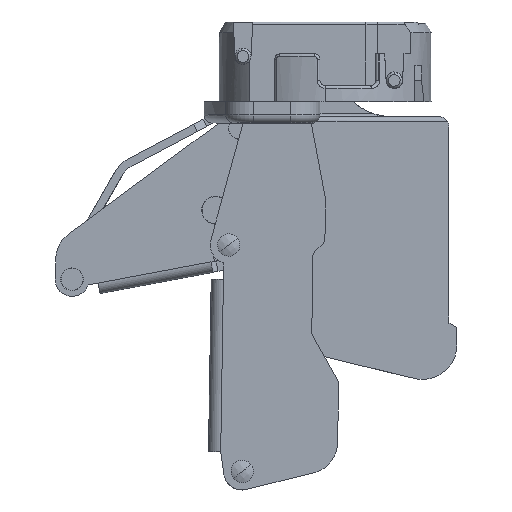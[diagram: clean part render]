
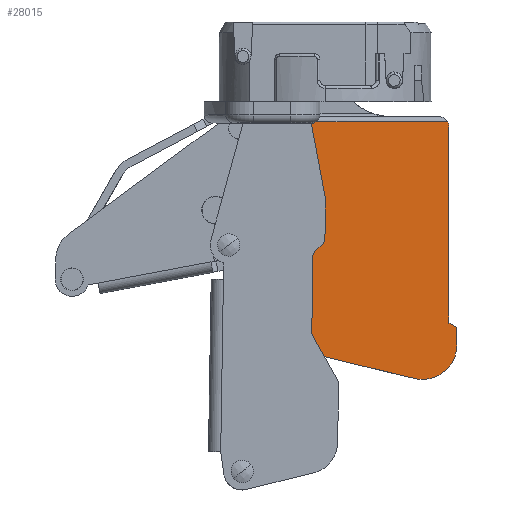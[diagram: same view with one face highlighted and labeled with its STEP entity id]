
A CAD part, left-side view. The second image highlights one B-rep face of the part: STEP entity #28015.
In plain terms, the highlighted planar face has unit normal (-1, 0, 0).
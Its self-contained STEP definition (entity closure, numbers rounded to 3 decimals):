
#2565 = CARTESIAN_POINT ( 'NONE',  ( -9., 2.6, -9.7 ) ) ;
#2569 = CARTESIAN_POINT ( 'NONE',  ( -9., -0.4, -8.6 ) ) ;
#2578 = CARTESIAN_POINT ( 'NONE',  ( -9., 2.6, -35. ) ) ;
#2582 = CARTESIAN_POINT ( 'NONE',  ( -9., 2.5, -42. ) ) ;
#2584 = CARTESIAN_POINT ( 'NONE',  ( -9., 1.5, -8.6 ) ) ;
#2663 = CARTESIAN_POINT ( 'NONE',  ( -9., -28.232, -6.8 ) ) ;
#2672 = CARTESIAN_POINT ( 'NONE',  ( -9., -30., -48.831 ) ) ;
#2673 = CARTESIAN_POINT ( 'NONE',  ( -9., -28.5, -44.7 ) ) ;
#2674 = CARTESIAN_POINT ( 'NONE',  ( -9., -28.5, -7.8 ) ) ;
#2675 = CARTESIAN_POINT ( 'NONE',  ( -9., -30., -45.566 ) ) ;
#2679 = CARTESIAN_POINT ( 'NONE',  ( -9., 1., -40.5 ) ) ;
#4075 = CARTESIAN_POINT ( 'NONE',  ( -9., -21.965, -55.147 ) ) ;
#4349 = CARTESIAN_POINT ( 'NONE',  ( -9., 2.5, -49.2 ) ) ;
#4380 = CARTESIAN_POINT ( 'NONE',  ( -9., 2.5, -47.727 ) ) ;
#4389 = CARTESIAN_POINT ( 'NONE',  ( -9., 2.5, -43.473 ) ) ;
#5339 = CIRCLE ( 'NONE', #7677, 2.127 ) ;
#5360 = CIRCLE ( 'NONE', #7683, 2.127 ) ;
#5828 = LINE ( 'NONE', #8553, #5829 ) ;
#5829 = VECTOR ( 'NONE', #8555, 1000. ) ;
#7388 = CARTESIAN_POINT ( 'NONE',  ( -9., 2.5, -45.6 ) ) ;
#7389 = DIRECTION ( 'NONE',  ( 1., 0., 0. ) ) ;
#7390 = DIRECTION ( 'NONE',  ( 0., 0., -1. ) ) ;
#7414 = CARTESIAN_POINT ( 'NONE',  ( -9., 2.5, -45.6 ) ) ;
#7415 = DIRECTION ( 'NONE',  ( 1., 0., 0. ) ) ;
#7416 = DIRECTION ( 'NONE',  ( 0., 0., -1. ) ) ;
#7677 = AXIS2_PLACEMENT_3D ( 'NONE', #7388, #7389, #7390 ) ;
#7683 = AXIS2_PLACEMENT_3D ( 'NONE', #7414, #7415, #7416 ) ;
#7751 = AXIS2_PLACEMENT_3D ( 'NONE', #8799, #8800, #8801 ) ;
#7756 = AXIS2_PLACEMENT_3D ( 'NONE', #8970, #8971, #8972 ) ;
#7760 = AXIS2_PLACEMENT_3D ( 'NONE', #8996, #8997, #8998 ) ;
#7761 = AXIS2_PLACEMENT_3D ( 'NONE', #9006, #9007, #9008 ) ;
#8151 = AXIS2_PLACEMENT_3D ( 'NONE', #12354, #12359, #12360 ) ;
#8553 = CARTESIAN_POINT ( 'NONE',  ( -9., -30., -57.1 ) ) ;
#8555 = DIRECTION ( 'NONE',  ( 0., 0.972, 0.236 ) ) ;
#8780 = CARTESIAN_POINT ( 'NONE',  ( -9., 2.6, -9.7 ) ) ;
#8781 = CARTESIAN_POINT ( 'NONE',  ( -9., -0.4, -8.6 ) ) ;
#8782 = DIRECTION ( 'NONE',  ( 0., 0., 1. ) ) ;
#8785 = CARTESIAN_POINT ( 'NONE',  ( -9., 1.5, -8.6 ) ) ;
#8786 = DIRECTION ( 'NONE',  ( 0., -0.707, 0.707 ) ) ;
#8789 = DIRECTION ( 'NONE',  ( 0., -1., 0. ) ) ;
#8799 = CARTESIAN_POINT ( 'NONE',  ( -9., 2.5, -45.6 ) ) ;
#8800 = DIRECTION ( 'NONE',  ( 1., 0., 0. ) ) ;
#8801 = DIRECTION ( 'NONE',  ( 0., 0., 1. ) ) ;
#8945 = CARTESIAN_POINT ( 'NONE',  ( -9., -28.5, -44.7 ) ) ;
#8951 = CARTESIAN_POINT ( 'NONE',  ( -9., -30., -45.566 ) ) ;
#8956 = CARTESIAN_POINT ( 'NONE',  ( -9., -28.5, -5.8 ) ) ;
#8957 = DIRECTION ( 'NONE',  ( 0., 0., -1. ) ) ;
#8960 = DIRECTION ( 'NONE',  ( 0., -0.866, -0.5 ) ) ;
#8964 = DIRECTION ( 'NONE',  ( 0., 0., -1. ) ) ;
#8970 = CARTESIAN_POINT ( 'NONE',  ( -9., -23.5, -48.831 ) ) ;
#8971 = DIRECTION ( 'NONE',  ( -1., 0., 0. ) ) ;
#8972 = DIRECTION ( 'NONE',  ( 0., 0., -1. ) ) ;
#8989 = CARTESIAN_POINT ( 'NONE',  ( -9., 2.8, -6.8 ) ) ;
#8990 = DIRECTION ( 'NONE',  ( 0., 1., 0. ) ) ;
#8995 = CARTESIAN_POINT ( 'NONE',  ( -9., 1., -37. ) ) ;
#8996 = CARTESIAN_POINT ( 'NONE',  ( -9., -26.5, -7.8 ) ) ;
#8997 = DIRECTION ( 'NONE',  ( -1., 0., 0. ) ) ;
#8998 = DIRECTION ( 'NONE',  ( 0., 0., -1. ) ) ;
#8999 = CARTESIAN_POINT ( 'NONE',  ( -9., -0.4, -6.4 ) ) ;
#9000 = DIRECTION ( 'NONE',  ( 0., 0., 1. ) ) ;
#9001 = CARTESIAN_POINT ( 'NONE',  ( -9., 2.6, -35. ) ) ;
#9002 = DIRECTION ( 'NONE',  ( 0., 0.625, 0.781 ) ) ;
#9003 = DIRECTION ( 'NONE',  ( 0., 0., 1. ) ) ;
#9006 = CARTESIAN_POINT ( 'NONE',  ( -9., 2.5, -40.5 ) ) ;
#9007 = DIRECTION ( 'NONE',  ( 1., 0., 0. ) ) ;
#9008 = DIRECTION ( 'NONE',  ( 0., 0., -1. ) ) ;
#9754 = LINE ( 'NONE', #8780, #9756 ) ;
#9756 = VECTOR ( 'NONE', #8782, 1000. ) ;
#9757 = LINE ( 'NONE', #8781, #9766 ) ;
#9759 = LINE ( 'NONE', #8785, #9762 ) ;
#9762 = VECTOR ( 'NONE', #8786, 1000. ) ;
#9766 = VECTOR ( 'NONE', #8789, 1000. ) ;
#9769 = CIRCLE ( 'NONE', #7751, 3.6 ) ;
#9913 = LINE ( 'NONE', #8945, #9924 ) ;
#9917 = LINE ( 'NONE', #8956, #9920 ) ;
#9920 = VECTOR ( 'NONE', #8957, 1000. ) ;
#9921 = LINE ( 'NONE', #8951, #9928 ) ;
#9924 = VECTOR ( 'NONE', #8960, 1000. ) ;
#9928 = VECTOR ( 'NONE', #8964, 1000. ) ;
#9929 = CIRCLE ( 'NONE', #7756, 6.5 ) ;
#9931 = LINE ( 'NONE', #8995, #9957 ) ;
#9948 = CIRCLE ( 'NONE', #7760, 2. ) ;
#9949 = LINE ( 'NONE', #8989, #9951 ) ;
#9950 = LINE ( 'NONE', #8999, #9953 ) ;
#9951 = VECTOR ( 'NONE', #8990, 1000. ) ;
#9952 = LINE ( 'NONE', #9001, #9955 ) ;
#9953 = VECTOR ( 'NONE', #9000, 1000. ) ;
#9955 = VECTOR ( 'NONE', #9002, 1000. ) ;
#9956 = CIRCLE ( 'NONE', #7761, 1.5 ) ;
#9957 = VECTOR ( 'NONE', #9003, 1000. ) ;
#10679 = FACE_BOUND ( 'NONE', #36425, .T. ) ;
#10685 = FACE_OUTER_BOUND ( 'NONE', #36416, .T. ) ;
#12352 = PLANE ( 'NONE',  #8151 ) ;
#12354 = CARTESIAN_POINT ( 'NONE',  ( -9., 2.8, -6.4 ) ) ;
#12359 = DIRECTION ( 'NONE',  ( 1., 0., 0. ) ) ;
#12360 = DIRECTION ( 'NONE',  ( 0., 0., -1. ) ) ;
#17713 = VERTEX_POINT ( 'NONE', #37087 ) ;
#17715 = VERTEX_POINT ( 'NONE', #36988 ) ;
#24251 = VERTEX_POINT ( 'NONE', #2565 ) ;
#24255 = VERTEX_POINT ( 'NONE', #2569 ) ;
#24264 = VERTEX_POINT ( 'NONE', #2578 ) ;
#24268 = VERTEX_POINT ( 'NONE', #2582 ) ;
#24270 = VERTEX_POINT ( 'NONE', #2584 ) ;
#24349 = VERTEX_POINT ( 'NONE', #2663 ) ;
#24358 = VERTEX_POINT ( 'NONE', #2672 ) ;
#24359 = VERTEX_POINT ( 'NONE', #2673 ) ;
#24360 = VERTEX_POINT ( 'NONE', #2674 ) ;
#24361 = VERTEX_POINT ( 'NONE', #2675 ) ;
#24365 = VERTEX_POINT ( 'NONE', #2679 ) ;
#26107 = VERTEX_POINT ( 'NONE', #4075 ) ;
#26381 = VERTEX_POINT ( 'NONE', #4349 ) ;
#26412 = VERTEX_POINT ( 'NONE', #4380 ) ;
#26421 = VERTEX_POINT ( 'NONE', #4389 ) ;
#27093 = EDGE_CURVE ( 'NONE', #26421, #26412, #5339, .T. ) ;
#27102 = EDGE_CURVE ( 'NONE', #26412, #26421, #5360, .T. ) ;
#27294 = EDGE_CURVE ( 'NONE', #26107, #26381, #5828, .T. ) ;
#27404 = EDGE_CURVE ( 'NONE', #24264, #24251, #9754, .T. ) ;
#27407 = EDGE_CURVE ( 'NONE', #24251, #24270, #9759, .T. ) ;
#27409 = EDGE_CURVE ( 'NONE', #24270, #24255, #9757, .T. ) ;
#27412 = EDGE_CURVE ( 'NONE', #26381, #24268, #9769, .T. ) ;
#27489 = EDGE_CURVE ( 'NONE', #24360, #24359, #9917, .T. ) ;
#27491 = EDGE_CURVE ( 'NONE', #24359, #24361, #9913, .T. ) ;
#27493 = EDGE_CURVE ( 'NONE', #24361, #24358, #9921, .T. ) ;
#27495 = EDGE_CURVE ( 'NONE', #26107, #24358, #9929, .T. ) ;
#27506 = EDGE_CURVE ( 'NONE', #24360, #24349, #9948, .T. ) ;
#27507 = EDGE_CURVE ( 'NONE', #24349, #17715, #9949, .T. ) ;
#27508 = EDGE_CURVE ( 'NONE', #24255, #17715, #9950, .T. ) ;
#27509 = EDGE_CURVE ( 'NONE', #17713, #24264, #9952, .T. ) ;
#27510 = EDGE_CURVE ( 'NONE', #24365, #17713, #9931, .T. ) ;
#27511 = EDGE_CURVE ( 'NONE', #24365, #24268, #9956, .T. ) ;
#28015 = ADVANCED_FACE ( 'NONE', ( #10679, #10685 ), #12352, .F. ) ;
#31178 = ORIENTED_EDGE ( 'NONE', *, *, #27093, .T. ) ;
#31179 = ORIENTED_EDGE ( 'NONE', *, *, #27102, .T. ) ;
#31180 = ORIENTED_EDGE ( 'NONE', *, *, #27506, .T. ) ;
#31181 = ORIENTED_EDGE ( 'NONE', *, *, #27507, .T. ) ;
#31182 = ORIENTED_EDGE ( 'NONE', *, *, #27508, .F. ) ;
#31183 = ORIENTED_EDGE ( 'NONE', *, *, #27409, .F. ) ;
#31184 = ORIENTED_EDGE ( 'NONE', *, *, #27407, .F. ) ;
#31185 = ORIENTED_EDGE ( 'NONE', *, *, #27404, .F. ) ;
#31186 = ORIENTED_EDGE ( 'NONE', *, *, #27509, .F. ) ;
#31187 = ORIENTED_EDGE ( 'NONE', *, *, #27510, .F. ) ;
#31188 = ORIENTED_EDGE ( 'NONE', *, *, #27511, .T. ) ;
#31189 = ORIENTED_EDGE ( 'NONE', *, *, #27412, .F. ) ;
#31190 = ORIENTED_EDGE ( 'NONE', *, *, #27294, .F. ) ;
#31191 = ORIENTED_EDGE ( 'NONE', *, *, #27495, .T. ) ;
#31192 = ORIENTED_EDGE ( 'NONE', *, *, #27493, .F. ) ;
#31193 = ORIENTED_EDGE ( 'NONE', *, *, #27491, .F. ) ;
#31194 = ORIENTED_EDGE ( 'NONE', *, *, #27489, .F. ) ;
#36416 = EDGE_LOOP ( 'NONE', ( #31180, #31181, #31182, #31183, #31184, #31185, #31186, #31187, #31188, #31189, #31190, #31191, #31192, #31193, #31194 ) ) ;
#36425 = EDGE_LOOP ( 'NONE', ( #31178, #31179 ) ) ;
#36988 = CARTESIAN_POINT ( 'NONE',  ( -9., -0.4, -6.8 ) ) ;
#37087 = CARTESIAN_POINT ( 'NONE',  ( -9., 1., -37. ) ) ;
